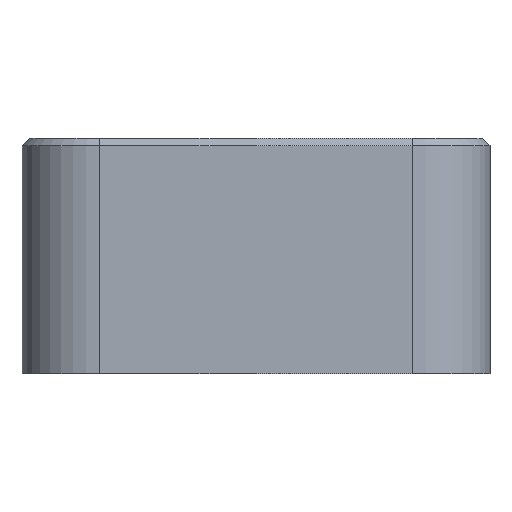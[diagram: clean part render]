
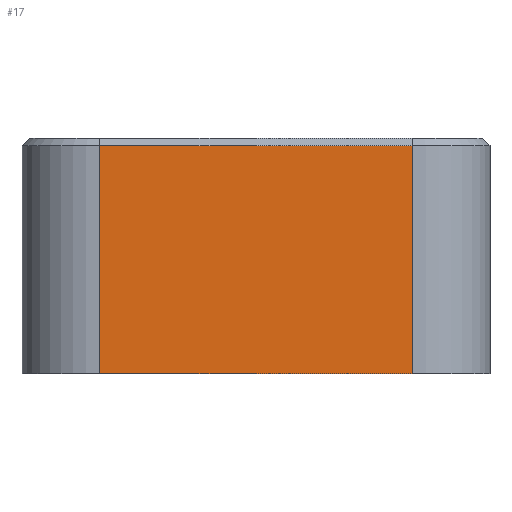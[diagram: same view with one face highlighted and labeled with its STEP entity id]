
A CAD part, left-side view. The second image highlights one B-rep face of the part: STEP entity #17.
In plain terms, the highlighted planar face has unit normal (-1, 0, 0).
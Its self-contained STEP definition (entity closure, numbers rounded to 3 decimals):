
#17 = ADVANCED_FACE('',(#18),#32,.F.);
#18 = FACE_BOUND('',#19,.F.);
#19 = EDGE_LOOP('',(#20,#55,#83,#111));
#20 = ORIENTED_EDGE('',*,*,#21,.F.);
#21 = EDGE_CURVE('',#22,#24,#26,.T.);
#22 = VERTEX_POINT('',#23);
#23 = CARTESIAN_POINT('',(-27.,-16.,2.4));
#24 = VERTEX_POINT('',#25);
#25 = CARTESIAN_POINT('',(-27.,-16.,25.8));
#26 = SURFACE_CURVE('',#27,(#31,#43),.PCURVE_S1.);
#27 = LINE('',#28,#29);
#28 = CARTESIAN_POINT('',(-27.,-16.,2.4));
#29 = VECTOR('',#30,1.);
#30 = DIRECTION('',(0.,0.,1.));
#31 = PCURVE('',#32,#37);
#32 = PLANE('',#33);
#33 = AXIS2_PLACEMENT_3D('',#34,#35,#36);
#34 = CARTESIAN_POINT('',(-27.,-24.,2.4));
#35 = DIRECTION('',(1.,0.,0.));
#36 = DIRECTION('',(0.,0.,1.));
#37 = DEFINITIONAL_REPRESENTATION('',(#38),#42);
#38 = LINE('',#39,#40);
#39 = CARTESIAN_POINT('',(0.,-8.));
#40 = VECTOR('',#41,1.);
#41 = DIRECTION('',(1.,0.));
#42 = ( GEOMETRIC_REPRESENTATION_CONTEXT(2) 
PARAMETRIC_REPRESENTATION_CONTEXT() REPRESENTATION_CONTEXT('2D SPACE',''
  ) );
#43 = PCURVE('',#44,#49);
#44 = CYLINDRICAL_SURFACE('',#45,8.);
#45 = AXIS2_PLACEMENT_3D('',#46,#47,#48);
#46 = CARTESIAN_POINT('',(-19.,-16.,2.4));
#47 = DIRECTION('',(0.,0.,1.));
#48 = DIRECTION('',(-1.,-0.,0.));
#49 = DEFINITIONAL_REPRESENTATION('',(#50),#54);
#50 = LINE('',#51,#52);
#51 = CARTESIAN_POINT('',(0.,0.));
#52 = VECTOR('',#53,1.);
#53 = DIRECTION('',(0.,1.));
#54 = ( GEOMETRIC_REPRESENTATION_CONTEXT(2) 
PARAMETRIC_REPRESENTATION_CONTEXT() REPRESENTATION_CONTEXT('2D SPACE',''
  ) );
#55 = ORIENTED_EDGE('',*,*,#56,.T.);
#56 = EDGE_CURVE('',#22,#57,#59,.T.);
#57 = VERTEX_POINT('',#58);
#58 = CARTESIAN_POINT('',(-27.,16.,2.4));
#59 = SURFACE_CURVE('',#60,(#64,#71),.PCURVE_S1.);
#60 = LINE('',#61,#62);
#61 = CARTESIAN_POINT('',(-27.,-24.,2.4));
#62 = VECTOR('',#63,1.);
#63 = DIRECTION('',(0.,1.,0.));
#64 = PCURVE('',#32,#65);
#65 = DEFINITIONAL_REPRESENTATION('',(#66),#70);
#66 = LINE('',#67,#68);
#67 = CARTESIAN_POINT('',(0.,0.));
#68 = VECTOR('',#69,1.);
#69 = DIRECTION('',(0.,-1.));
#70 = ( GEOMETRIC_REPRESENTATION_CONTEXT(2) 
PARAMETRIC_REPRESENTATION_CONTEXT() REPRESENTATION_CONTEXT('2D SPACE',''
  ) );
#71 = PCURVE('',#72,#77);
#72 = PLANE('',#73);
#73 = AXIS2_PLACEMENT_3D('',#74,#75,#76);
#74 = CARTESIAN_POINT('',(-27.,-24.,2.4));
#75 = DIRECTION('',(0.,0.,1.));
#76 = DIRECTION('',(1.,0.,0.));
#77 = DEFINITIONAL_REPRESENTATION('',(#78),#82);
#78 = LINE('',#79,#80);
#79 = CARTESIAN_POINT('',(0.,0.));
#80 = VECTOR('',#81,1.);
#81 = DIRECTION('',(0.,1.));
#82 = ( GEOMETRIC_REPRESENTATION_CONTEXT(2) 
PARAMETRIC_REPRESENTATION_CONTEXT() REPRESENTATION_CONTEXT('2D SPACE',''
  ) );
#83 = ORIENTED_EDGE('',*,*,#84,.T.);
#84 = EDGE_CURVE('',#57,#85,#87,.T.);
#85 = VERTEX_POINT('',#86);
#86 = CARTESIAN_POINT('',(-27.,16.,25.8));
#87 = SURFACE_CURVE('',#88,(#92,#99),.PCURVE_S1.);
#88 = LINE('',#89,#90);
#89 = CARTESIAN_POINT('',(-27.,16.,2.4));
#90 = VECTOR('',#91,1.);
#91 = DIRECTION('',(0.,0.,1.));
#92 = PCURVE('',#32,#93);
#93 = DEFINITIONAL_REPRESENTATION('',(#94),#98);
#94 = LINE('',#95,#96);
#95 = CARTESIAN_POINT('',(0.,-40.));
#96 = VECTOR('',#97,1.);
#97 = DIRECTION('',(1.,0.));
#98 = ( GEOMETRIC_REPRESENTATION_CONTEXT(2) 
PARAMETRIC_REPRESENTATION_CONTEXT() REPRESENTATION_CONTEXT('2D SPACE',''
  ) );
#99 = PCURVE('',#100,#105);
#100 = CYLINDRICAL_SURFACE('',#101,8.);
#101 = AXIS2_PLACEMENT_3D('',#102,#103,#104);
#102 = CARTESIAN_POINT('',(-19.,16.,2.4));
#103 = DIRECTION('',(0.,0.,1.));
#104 = DIRECTION('',(-1.,-0.,0.));
#105 = DEFINITIONAL_REPRESENTATION('',(#106),#110);
#106 = LINE('',#107,#108);
#107 = CARTESIAN_POINT('',(-0.,0.));
#108 = VECTOR('',#109,1.);
#109 = DIRECTION('',(-0.,1.));
#110 = ( GEOMETRIC_REPRESENTATION_CONTEXT(2) 
PARAMETRIC_REPRESENTATION_CONTEXT() REPRESENTATION_CONTEXT('2D SPACE',''
  ) );
#111 = ORIENTED_EDGE('',*,*,#112,.F.);
#112 = EDGE_CURVE('',#24,#85,#113,.T.);
#113 = SURFACE_CURVE('',#114,(#118,#125),.PCURVE_S1.);
#114 = LINE('',#115,#116);
#115 = CARTESIAN_POINT('',(-27.,-16.,25.8));
#116 = VECTOR('',#117,1.);
#117 = DIRECTION('',(0.,1.,0.));
#118 = PCURVE('',#32,#119);
#119 = DEFINITIONAL_REPRESENTATION('',(#120),#124);
#120 = LINE('',#121,#122);
#121 = CARTESIAN_POINT('',(23.4,-8.));
#122 = VECTOR('',#123,1.);
#123 = DIRECTION('',(0.,-1.));
#124 = ( GEOMETRIC_REPRESENTATION_CONTEXT(2) 
PARAMETRIC_REPRESENTATION_CONTEXT() REPRESENTATION_CONTEXT('2D SPACE',''
  ) );
#125 = PCURVE('',#126,#131);
#126 = PLANE('',#127);
#127 = AXIS2_PLACEMENT_3D('',#128,#129,#130);
#128 = CARTESIAN_POINT('',(-26.6,-16.,26.2));
#129 = DIRECTION('',(0.707,0.,-0.707)
  );
#130 = DIRECTION('',(0.,-1.,0.));
#131 = DEFINITIONAL_REPRESENTATION('',(#132),#136);
#132 = LINE('',#133,#134);
#133 = CARTESIAN_POINT('',(-0.,0.566));
#134 = VECTOR('',#135,1.);
#135 = DIRECTION('',(-1.,0.));
#136 = ( GEOMETRIC_REPRESENTATION_CONTEXT(2) 
PARAMETRIC_REPRESENTATION_CONTEXT() REPRESENTATION_CONTEXT('2D SPACE',''
  ) );
